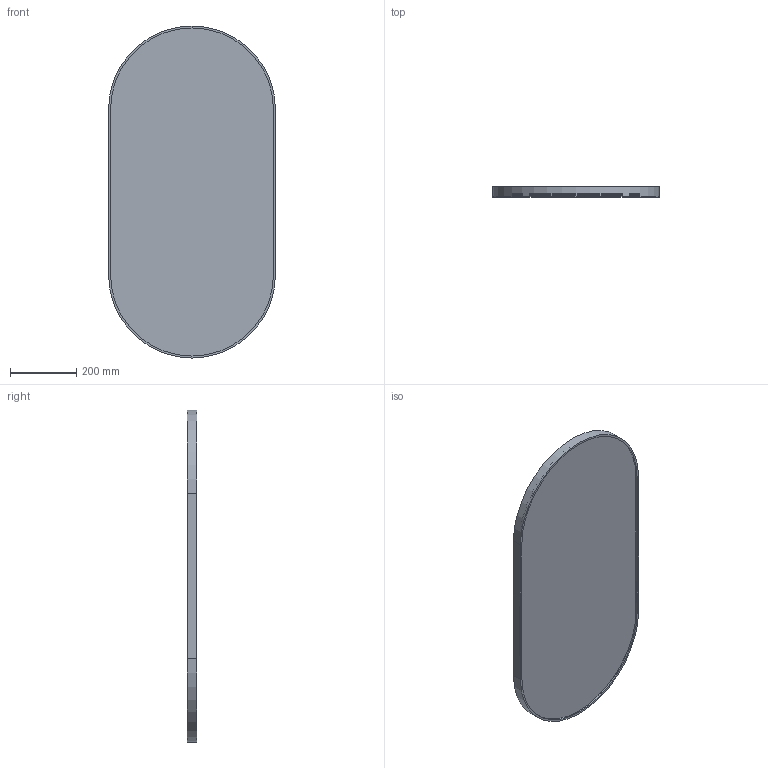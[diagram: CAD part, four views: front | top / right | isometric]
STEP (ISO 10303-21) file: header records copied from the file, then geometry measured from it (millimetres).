
FILE_DESCRIPTION(/* description */ ('Unknown'),/* implementation_level */ '2;1');
FILE_NAME(/* name */ 'Bold',/* time_stamp */ '2026-01-08T13:31:57+01:00',/* author */ ('Mariusz Kirko'),/* organization */ ('Kraft'),/* preprocessor_version */ 'ST-DEVELOPER v19.4',/* originating_system */ 'Solid Edge',/* authorisation */ 'Unknown');
FILE_SCHEMA (('AUTOMOTIVE_DESIGN {1 0 10303 214 3 1 1}'));
Length unit declared in the file: millimetre
Products named in the file (4): Z這瞠nie plus zawieszka; Rama 50x100; Lustro 50x100; 300x20
Assembly tree (3 placements, depth 2):
  Z這瞠nie plus zawieszka
    Rama 50x100
    Lustro 50x100
    300x20
Bounding box: 506 x 30 x 1006 mm (x, y, z)
Volume: 2079737.5 mm3; surface area: 1138787.1 mm2
Topology: 3 solids, 3 shells, 83 faces, 224 edges, 148 vertices
Faces by surface type: plane 49, cylinder 32, cone 2
Entity records: 2765 total; most frequent: DIRECTION 464, CARTESIAN_POINT 459, ORIENTED_EDGE 448, EDGE_CURVE 224, LINE 158, VECTOR 158, AXIS2_PLACEMENT_3D 153, VERTEX_POINT 148
